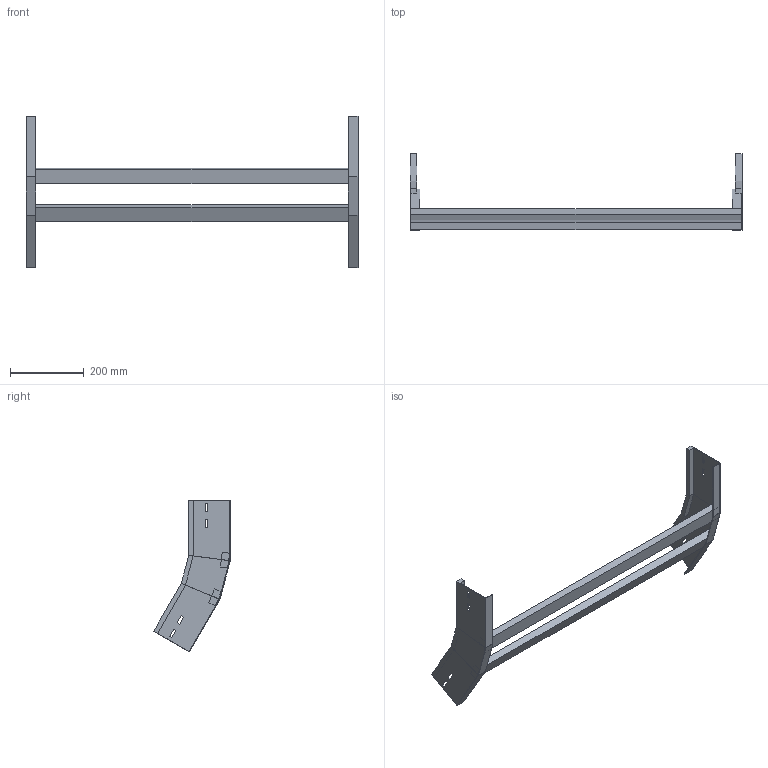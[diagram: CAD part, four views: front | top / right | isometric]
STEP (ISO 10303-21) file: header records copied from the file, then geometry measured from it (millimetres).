
FILE_DESCRIPTION (( 'STEP AP214' ), '1' );
FILE_NAME ('A2X32B3J900XX.step', '2025-03-20T09:59:35', ( '' ), ( '' ), 'SwSTEP 2.0', 'SolidWorks 2023', '' );
FILE_SCHEMA (( 'AUTOMOTIVE_DESIGN' ));
Length unit declared in the file: millimetre
Products named in the file (3): TRAVERSINO_900; A2X32B3J900XX; LONGH.SALITA_30°_H112.5_R300
Assembly tree (4 placements, depth 2):
  A2X32B3J900XX
    LONGH.SALITA_30°_H112.5_R300  x2
    TRAVERSINO_900  x2
Bounding box: 900 x 207.73 x 411.66 mm (x, y, z)
Volume: 1822668.9 mm3; surface area: 475258 mm2
Topology: 4 solids, 4 shells, 96 faces, 232 edges, 144 vertices
Faces by surface type: plane 96
Entity records: 1472 total; most frequent: CARTESIAN_POINT 243, ORIENTED_EDGE 232, DIRECTION 226, LINE 116, VECTOR 116, EDGE_CURVE 116, VERTEX_POINT 72, EDGE_LOOP 56
